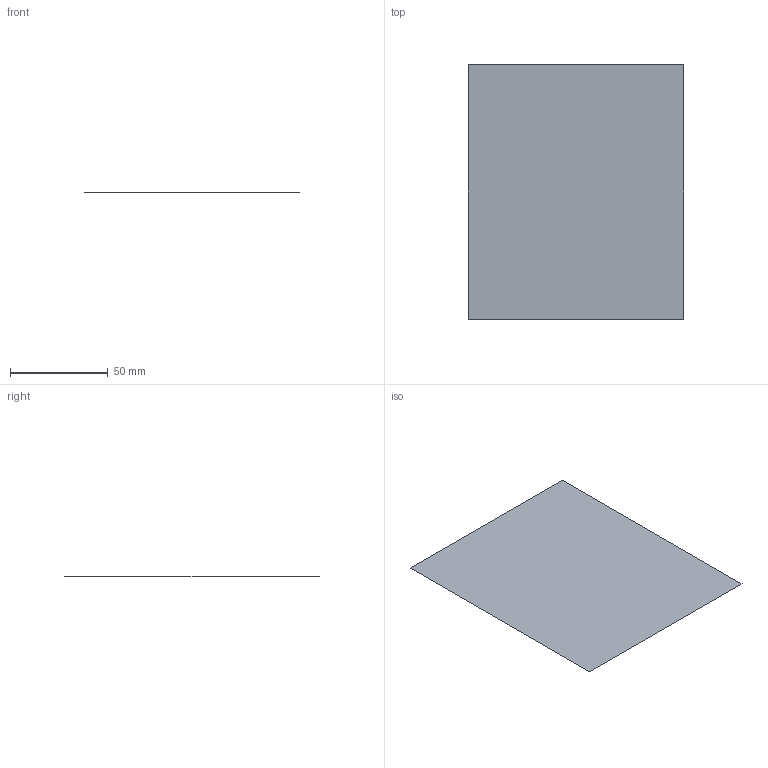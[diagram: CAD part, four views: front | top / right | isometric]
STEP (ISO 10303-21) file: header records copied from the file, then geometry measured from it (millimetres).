
FILE_DESCRIPTION(('CATIA V5 STEP Exchange'),'2;1');
FILE_NAME('C:\_Andres\UNIVERSIDAD\IQS\ASIGNATURAS\DAO\EXF\EXF-15161c\1original\Purroy_Trillo_Ej06-calculo_v20.stp','2016-03-04T20:57:43+00:00',('none'),('none'),'CATIA Version 5 Release 20 SP 1 (IN-10)','CATIA V5 STEP AP203','none');
FILE_SCHEMA(('CONFIG_CONTROL_DESIGN'));
Length unit declared in the file: millimetre
Products named in the file (1): Purroy_Trillo_Ej06-calculo_v20
Bounding box: 110 x 130 x 0 mm (x, y, z)
Surface area: 14300 mm2 (no closed solid volume)
Topology: 0 solids, 1 shells, 1 faces, 8 edges, 9 vertices
Faces by surface type: plane 1
Entity records: 130 total; most frequent: CARTESIAN_POINT 23, DIRECTION 12, VECTOR 8, LINE 8, COMPOSITE_CURVE_SEGMENT 4, ORIENTED_EDGE 4, CC_DESIGN_PERSON_AND_ORGANIZATION_ASSIGNMENT 4, PERSON_AND_ORGANIZATION_ROLE 4
